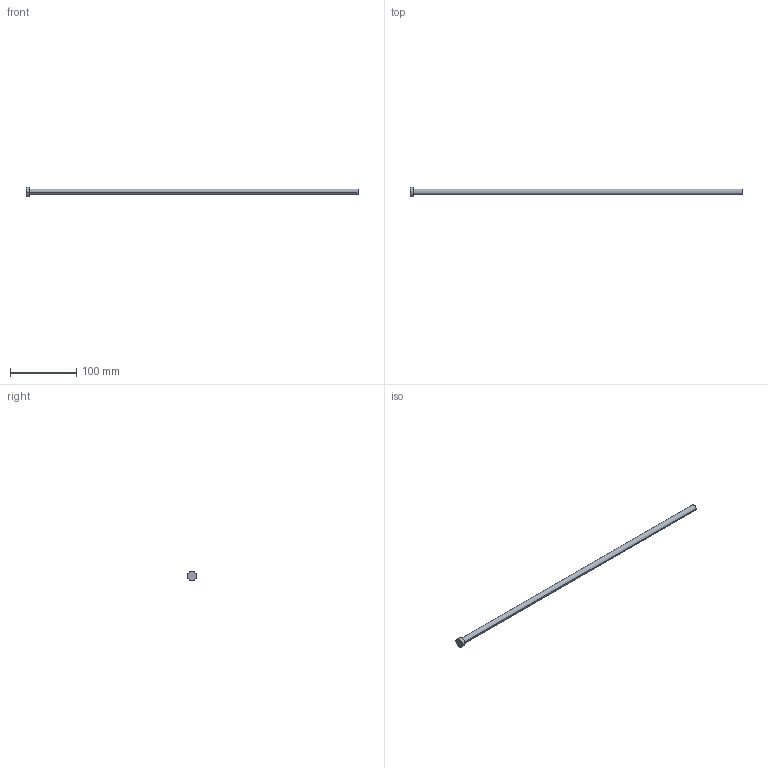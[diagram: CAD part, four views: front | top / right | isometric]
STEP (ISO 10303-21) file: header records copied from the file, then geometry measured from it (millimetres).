
FILE_DESCRIPTION (( 'STEP AP214' ), '1' );
FILE_NAME ('A-9x500.STEP', '2020-05-29T15:57:26', ( 'August' ), ( '' ), 'SwSTEP 2.0', 'SolidWorks 2018', '' );
FILE_SCHEMA (( 'AUTOMOTIVE_DESIGN' ));
Length unit declared in the file: millimetre
Products named in the file (1): A-9x500
Bounding box: 500 x 14 x 14 mm (x, y, z)
Volume: 32261.8 mm3; surface area: 14517.6 mm2
Topology: 1 solids, 1 shells, 9 faces, 16 edges, 10 vertices
Faces by surface type: cylinder 4, plane 3, torus 2
Entity records: 260 total; most frequent: DIRECTION 48, CARTESIAN_POINT 36, ORIENTED_EDGE 32, AXIS2_PLACEMENT_3D 22, EDGE_CURVE 16, CIRCLE 12, VERTEX_POINT 10, EDGE_LOOP 10
